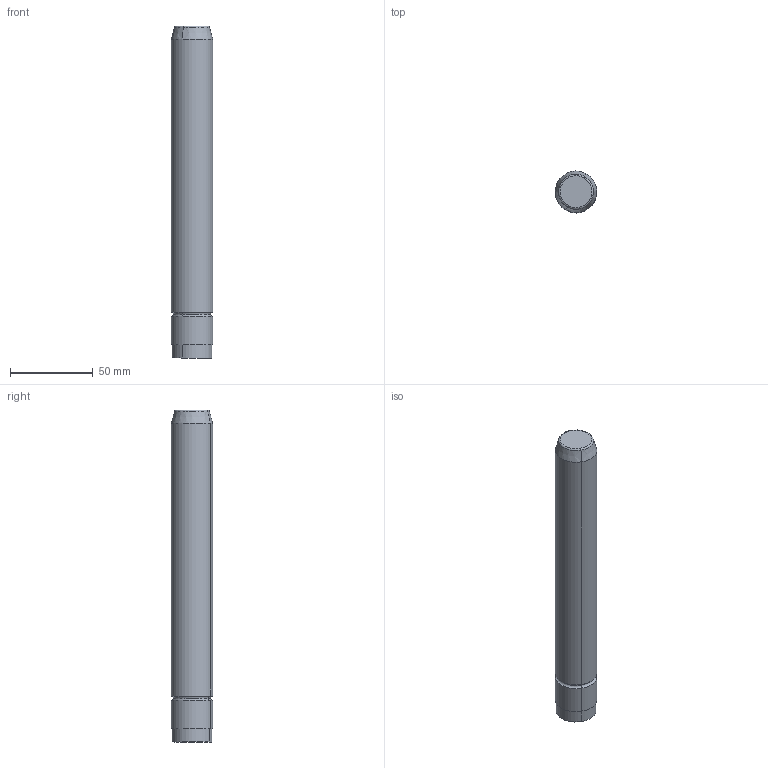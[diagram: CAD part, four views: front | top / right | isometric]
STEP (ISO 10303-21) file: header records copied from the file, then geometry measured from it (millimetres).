
FILE_DESCRIPTION(('CATIA V5 STEP Exchange'),'2;1');
FILE_NAME('C:\Users\Utente\Desktop\IO LAVORO\3D X SITO CF\X SITO\M104\M104-25x200.stp','2020-12-26T21:37:15+00:00',('none'),('none'),'CATIA Version 5 Release 20 GA (IN-10)','CATIA V5 STEP AP203','none');
FILE_SCHEMA(('CONFIG_CONTROL_DESIGN'));
Length unit declared in the file: millimetre
Products named in the file (1): M104-25x200
Bounding box: 24.99 x 24.99 x 200 mm (x, y, z)
Volume: 97010.2 mm3; surface area: 16560.2 mm2
Topology: 1 solids, 1 shells, 17 faces, 32 edges, 18 vertices
Faces by surface type: cylinder 6, torus 6, plane 3, cone 2
Entity records: 438 total; most frequent: CARTESIAN_POINT 66, ORIENTED_EDGE 64, DIRECTION 62, AXIS2_PLACEMENT_3D 40, EDGE_CURVE 32, CIRCLE 24, EDGE_LOOP 18, VERTEX_POINT 18
